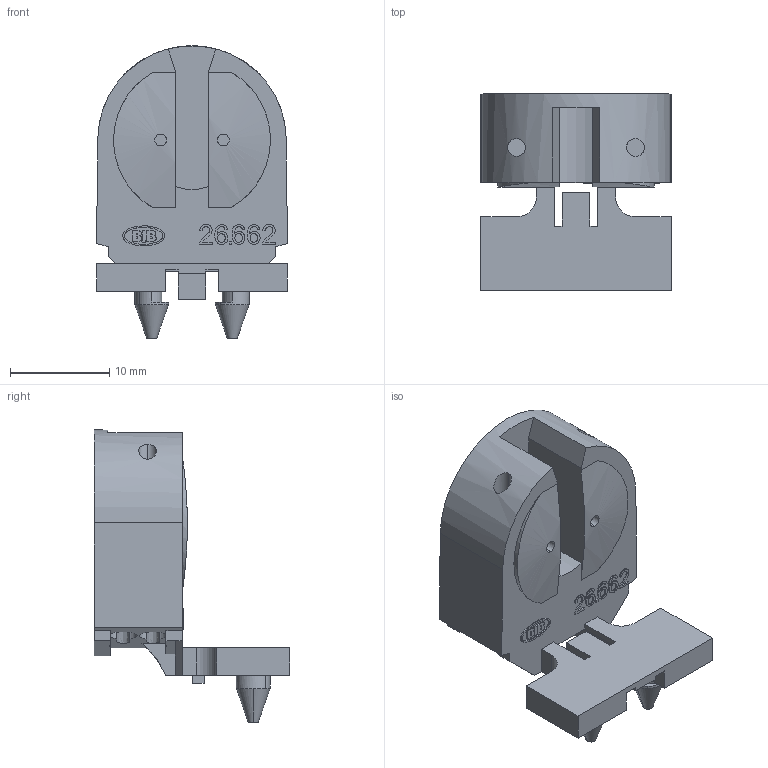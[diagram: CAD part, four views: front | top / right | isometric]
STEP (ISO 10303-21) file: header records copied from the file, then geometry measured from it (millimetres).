
FILE_DESCRIPTION((' '),'1');
FILE_NAME('00TY50BY05.stp','2011-08-25 T07:51:20',(''),(''),'STEP Interface 2011 Sp1 by CT CoreTechnologie','3D_Evolution2011 Sp1 by CT CoreTechnologie','');
FILE_SCHEMA(('AP203_CONFIGURATION_CONTROLLED_3D_DESIGN_OF_MECHANICAL_PARTS_AND_ASSEMBLIES_MIM_LF'));
Length unit declared in the file: millimetre
Products named in the file (1): 00TY50BY05
Bounding box: 19.25 x 19.75 x 29.49 mm (x, y, z)
Volume: 3184.6 mm3; surface area: 2613.4 mm2
Topology: 1 solids, 1 shells, 261 faces, 706 edges, 470 vertices
Faces by surface type: plane 158, cylinder 83, bspline 20
Entity records: 9029 total; most frequent: CARTESIAN_POINT 2384, ORIENTED_EDGE 1412, DIRECTION 1332, EDGE_CURVE 706, VECTOR 488, LINE 488, VERTEX_POINT 470, AXIS2_PLACEMENT_3D 422
